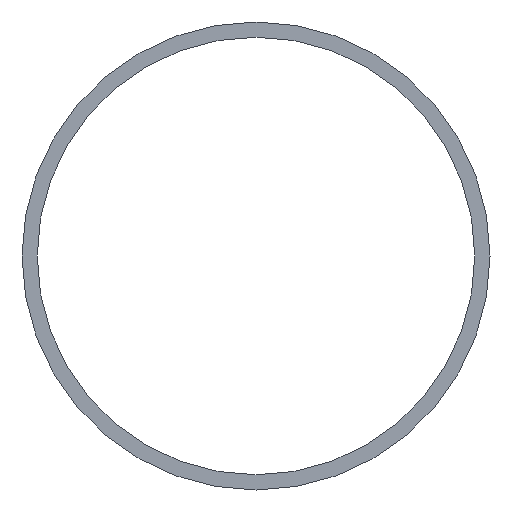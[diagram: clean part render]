
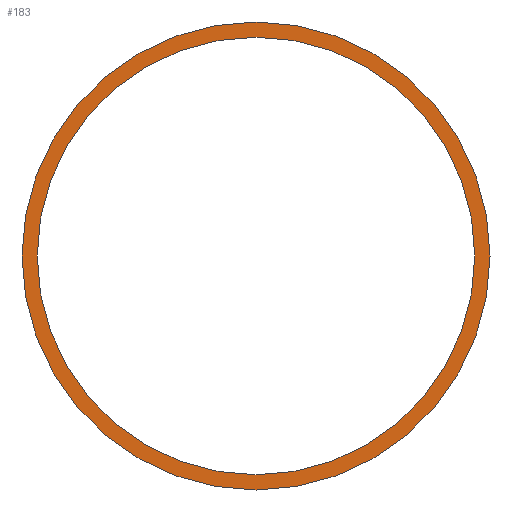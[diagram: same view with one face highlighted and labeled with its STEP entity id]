
A CAD part, front view. The second image highlights one B-rep face of the part: STEP entity #183.
In plain terms, the highlighted planar face has unit normal (0, -1, 0).
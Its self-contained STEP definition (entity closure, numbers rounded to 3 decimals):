
#22 = VERTEX_POINT('',#23);
#23 = CARTESIAN_POINT('',(19.25,-13.1,36.));
#32 = CYLINDRICAL_SURFACE('',#33,19.25);
#33 = AXIS2_PLACEMENT_3D('',#34,#35,#36);
#34 = CARTESIAN_POINT('',(0.,-13.1,36.));
#35 = DIRECTION('',(0.,-1.,-0.));
#36 = DIRECTION('',(1.,0.,0.));
#79 = EDGE_CURVE('',#22,#22,#80,.T.);
#80 = SURFACE_CURVE('',#81,(#86,#93),.PCURVE_S1.);
#81 = CIRCLE('',#82,19.25);
#82 = AXIS2_PLACEMENT_3D('',#83,#84,#85);
#83 = CARTESIAN_POINT('',(0.,-13.1,36.));
#84 = DIRECTION('',(-0.,1.,0.));
#85 = DIRECTION('',(1.,0.,0.));
#86 = PCURVE('',#32,#87);
#87 = DEFINITIONAL_REPRESENTATION('',(#88),#92);
#88 = LINE('',#89,#90);
#89 = CARTESIAN_POINT('',(-0.,0.));
#90 = VECTOR('',#91,1.);
#91 = DIRECTION('',(-1.,0.));
#92 = ( GEOMETRIC_REPRESENTATION_CONTEXT(2) 
PARAMETRIC_REPRESENTATION_CONTEXT() REPRESENTATION_CONTEXT('2D SPACE',''
  ) );
#93 = PCURVE('',#94,#99);
#94 = PLANE('',#95);
#95 = AXIS2_PLACEMENT_3D('',#96,#97,#98);
#96 = CARTESIAN_POINT('',(0.,-13.1,36.));
#97 = DIRECTION('',(0.,1.,0.));
#98 = DIRECTION('',(1.,0.,0.));
#99 = DEFINITIONAL_REPRESENTATION('',(#100),#104);
#100 = CIRCLE('',#101,19.25);
#101 = AXIS2_PLACEMENT_2D('',#102,#103);
#102 = CARTESIAN_POINT('',(0.,0.));
#103 = DIRECTION('',(1.,0.));
#104 = ( GEOMETRIC_REPRESENTATION_CONTEXT(2) 
PARAMETRIC_REPRESENTATION_CONTEXT() REPRESENTATION_CONTEXT('2D SPACE',''
  ) );
#110 = VERTEX_POINT('',#111);
#111 = CARTESIAN_POINT('',(18.,-13.1,36.));
#120 = CYLINDRICAL_SURFACE('',#121,18.);
#121 = AXIS2_PLACEMENT_3D('',#122,#123,#124);
#122 = CARTESIAN_POINT('',(0.,-13.1,36.));
#123 = DIRECTION('',(0.,-1.,-0.));
#124 = DIRECTION('',(1.,0.,0.));
#162 = EDGE_CURVE('',#110,#110,#163,.T.);
#163 = SURFACE_CURVE('',#164,(#169,#176),.PCURVE_S1.);
#164 = CIRCLE('',#165,18.);
#165 = AXIS2_PLACEMENT_3D('',#166,#167,#168);
#166 = CARTESIAN_POINT('',(0.,-13.1,36.));
#167 = DIRECTION('',(-0.,1.,0.));
#168 = DIRECTION('',(1.,0.,0.));
#169 = PCURVE('',#120,#170);
#170 = DEFINITIONAL_REPRESENTATION('',(#171),#175);
#171 = LINE('',#172,#173);
#172 = CARTESIAN_POINT('',(-0.,0.));
#173 = VECTOR('',#174,1.);
#174 = DIRECTION('',(-1.,0.));
#175 = ( GEOMETRIC_REPRESENTATION_CONTEXT(2) 
PARAMETRIC_REPRESENTATION_CONTEXT() REPRESENTATION_CONTEXT('2D SPACE',''
  ) );
#176 = PCURVE('',#94,#177);
#177 = DEFINITIONAL_REPRESENTATION('',(#178),#182);
#178 = CIRCLE('',#179,18.);
#179 = AXIS2_PLACEMENT_2D('',#180,#181);
#180 = CARTESIAN_POINT('',(0.,0.));
#181 = DIRECTION('',(1.,0.));
#182 = ( GEOMETRIC_REPRESENTATION_CONTEXT(2) 
PARAMETRIC_REPRESENTATION_CONTEXT() REPRESENTATION_CONTEXT('2D SPACE',''
  ) );
#183 = ADVANCED_FACE('',(#184,#187),#94,.F.);
#184 = FACE_BOUND('',#185,.F.);
#185 = EDGE_LOOP('',(#186));
#186 = ORIENTED_EDGE('',*,*,#79,.T.);
#187 = FACE_BOUND('',#188,.F.);
#188 = EDGE_LOOP('',(#189));
#189 = ORIENTED_EDGE('',*,*,#162,.F.);
